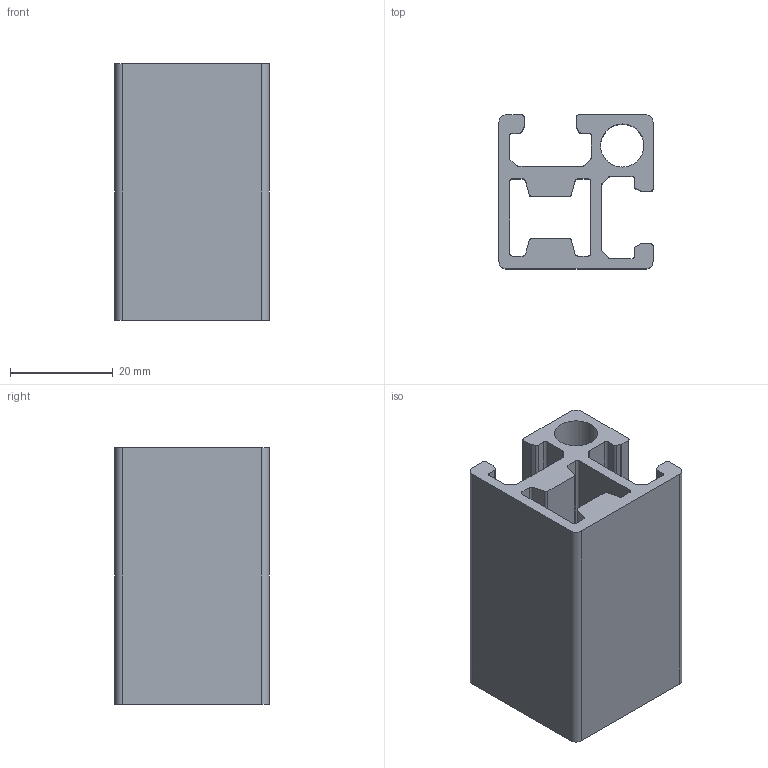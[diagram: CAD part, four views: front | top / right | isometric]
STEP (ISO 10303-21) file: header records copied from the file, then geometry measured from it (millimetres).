
FILE_DESCRIPTION(('STEP AP214'),'1');
FILE_NAME('F33MB-.stp','2017-07-21T04:11:11',(' '),(' '),'Spatial InterOp 3D',' ',' ');
FILE_SCHEMA(('automotive_design'));
Length unit declared in the file: millimetre
Products named in the file (1): F33MB-
Bounding box: 30 x 30 x 50 mm (x, y, z)
Volume: 19562.7 mm3; surface area: 14271.4 mm2
Topology: 1 solids, 1 shells, 83 faces, 243 edges, 162 vertices
Faces by surface type: plane 42, cylinder 41
Full cylindrical faces by diameter (mm): 8.4 x1
Entity records: 3462 total; most frequent: DIRECTION 492, CARTESIAN_POINT 488, ORIENTED_EDGE 484, EDGE_CURVE 242, AXIS2_PLACEMENT_3D 166, VERTEX_POINT 162, LINE 160, VECTOR 160
